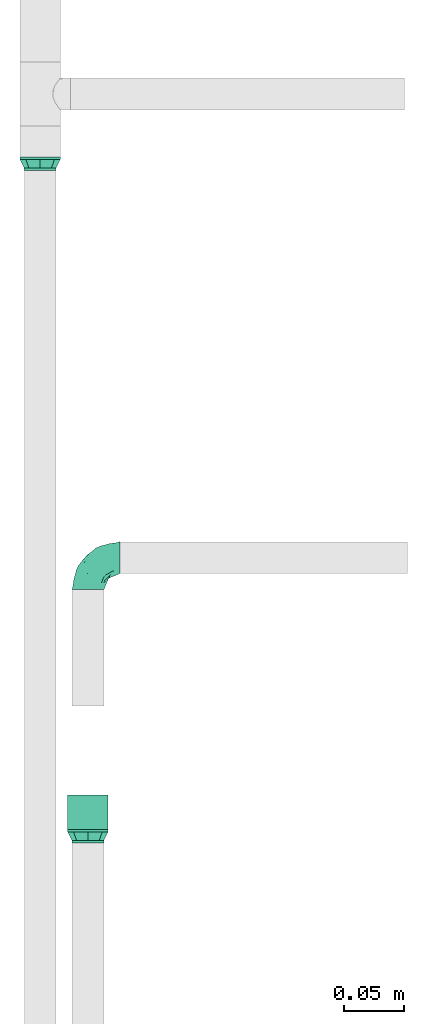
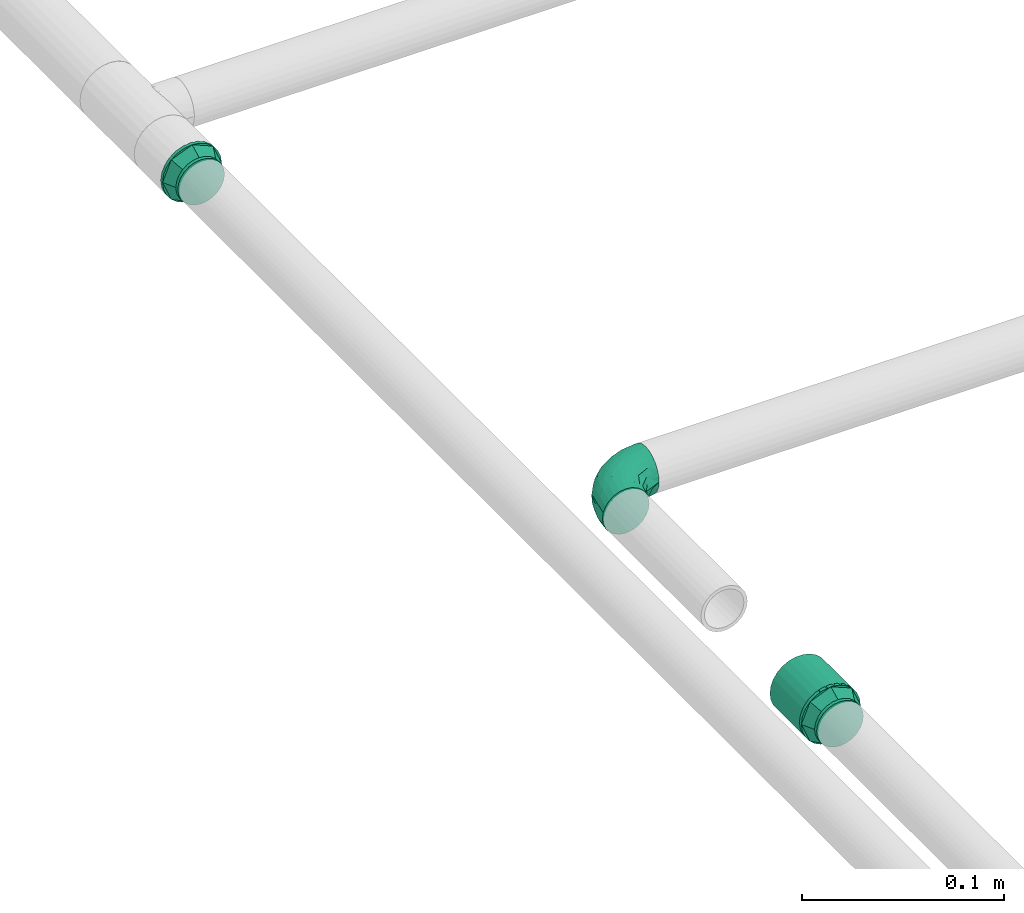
# One storey, part 4 of 13: 3 flow fittings, 1 flow segment.
"""IFC2X3 building model written with IfcOpenShell, lengths in millimetres."""

import ifcopenshell
import ifcopenshell.guid

model = None  # the IFC model being written
_history = None  # IfcOwnerHistory: only IFC2X3 demands one
_inside = {}  # id of a spatial element -> (the spatial element, [elements in it])
_under = {}  # id of a project, library or spatial element -> (it, [spatial elements below it])
_declared = {}  # id of a project -> (the project, [libraries it declares])
_typed = {}  # id of a type object -> (the type object, [elements of that type])
_made_of = {}  # id of a material, layer set ... -> (it, [elements and type objects made of it])


def new_model(schema):
    """Start an empty IFC model of exactly this schema.

    Asked for "IFC4X3", IfcOpenShell would pick the latest addendum, in which some entities
    have other attributes; the version numbers below select the first issue.
    IFC2X3 requires an IfcOwnerHistory on every rooted entity: one is made here for all.
    """
    global model, _history
    if schema == "IFC4X3":
        model = ifcopenshell.file(schema_version=(4, 3, 0, 0))
    else:
        model = ifcopenshell.file(schema=schema)
    _inside.clear()
    _under.clear()
    _declared.clear()
    _typed.clear()
    _made_of.clear()
    _history = None
    if model.schema == "IFC2X3":
        org = make("IfcOrganization", Name="unknown")
        user = make(
            "IfcPersonAndOrganization",
            ThePerson=make("IfcPerson", FamilyName="unknown"),
            TheOrganization=org,
        )
        app = make(
            "IfcApplication",
            ApplicationDeveloper=org,
            Version="unknown",
            ApplicationFullName="unknown",
            ApplicationIdentifier="unknown",
        )
        _history = make(
            "IfcOwnerHistory",
            OwningUser=user,
            OwningApplication=app,
            ChangeAction="ADDED",
            CreationDate=0,
        )
    return model


def make(cls, **values):
    """One entity of the class cls with the attributes given. An attribute that is None is left unset."""
    return model.create_entity(
        cls, **{name: value for name, value in values.items() if value is not None}
    )


def entity(cls, *values):
    """Any entity or typed value of the class cls, its attributes in the order of the schema. None: left unset."""
    e = model.create_entity(cls)
    for i, value in enumerate(values):
        if value is not None:
            e[i] = value
    return e


def rooted(cls, **values):
    """An entity with a GlobalId (a new one), such as an element, a storey or a relation."""
    return make(cls, GlobalId=ifcopenshell.guid.new(), OwnerHistory=_history, **values)


def si_unit(unit_type, name, prefix=None):
    """IfcSIUnit, for example si_unit("LENGTHUNIT", "METRE", prefix="MILLI")."""
    return make("IfcSIUnit", UnitType=unit_type, Prefix=prefix, Name=name)


def converted_unit(unit_type, name, factor, base, dimensions=None, offset=None):
    """IfcConversionBasedUnit, such as the inch: factor (a typed value) times the base unit."""
    return make(
        "IfcConversionBasedUnit"
        if offset is None
        else "IfcConversionBasedUnitWithOffset",
        ConversionOffset=offset,
        Dimensions=None
        if dimensions is None
        else entity("IfcDimensionalExponents", *dimensions),
        UnitType=unit_type,
        Name=name,
        ConversionFactor=make(
            "IfcMeasureWithUnit", ValueComponent=factor, UnitComponent=base
        ),
    )


def derived_unit(unit_type, elements):
    """IfcDerivedUnit: a product of units, each with its exponent."""
    return make(
        "IfcDerivedUnit",
        Elements=[
            make("IfcDerivedUnitElement", Unit=unit, Exponent=power)
            for unit, power in elements
        ],
        UnitType=unit_type,
    )


def assignment(units):
    """IfcUnitAssignment: the units of a project."""
    return None if units is None else make("IfcUnitAssignment", Units=units)


def point(xyz):
    """IfcCartesianPoint."""
    return None if xyz is None else make("IfcCartesianPoint", Coordinates=xyz)


def direction(xyz):
    """IfcDirection."""
    return None if xyz is None else make("IfcDirection", DirectionRatios=xyz)


def frame(location, z_axis=None, x_axis=None):
    """IfcAxis2Placement3D, a coordinate frame: its origin and axes. An axis left out is left unset."""
    return make(
        "IfcAxis2Placement3D",
        Location=point(location),
        Axis=direction(z_axis),
        RefDirection=direction(x_axis),
    )


def frame_2d(location, x_axis=None):
    """IfcAxis2Placement2D, a coordinate frame in the plane: its origin and x axis."""
    return make(
        "IfcAxis2Placement2D", Location=point(location), RefDirection=direction(x_axis)
    )


def origin_with_axes():
    """The frame at (0, 0, 0) with the z axis (0, 0, 1) and the x axis (1, 0, 0) written out."""
    return frame((0.0, 0.0, 0.0), z_axis=(0.0, 0.0, 1.0), x_axis=(1.0, 0.0, 0.0))


def origin_2d_with_axis():
    """The frame at (0, 0) in the plane with the x axis (1, 0) written out."""
    return frame_2d((0.0, 0.0), x_axis=(1.0, 0.0))


def place(relative_to, where):
    """IfcLocalPlacement: puts the frame where relative to a parent placement (None: the world)."""
    return make(
        "IfcLocalPlacement", PlacementRelTo=relative_to, RelativePlacement=where
    )


def context(
    kind, dimensions, precision=None, world=None, true_north=None, identifier=None
):
    """IfcGeometricRepresentationContext, for example the 3D "Model" context."""
    return make(
        "IfcGeometricRepresentationContext",
        ContextIdentifier=identifier,
        ContextType=kind,
        CoordinateSpaceDimension=dimensions,
        Precision=precision,
        WorldCoordinateSystem=world,
        TrueNorth=true_north,
    )


def subcontext(parent, identifier, kind, view, scale=None):
    """IfcGeometricRepresentationSubContext, for example "Body" below "Model"."""
    return make(
        "IfcGeometricRepresentationSubContext",
        ContextIdentifier=identifier,
        ContextType=kind,
        ParentContext=parent,
        TargetScale=scale,
        TargetView=view,
    )


def project(units=None, contexts=None):
    """IfcProject with its units and contexts."""
    return rooted(
        "IfcProject",
        Name="project",
        RepresentationContexts=contexts,
        UnitsInContext=assignment(units),
    )


def spatial(cls, under=None, at=None, **own):
    """A site, building, storey or space (cls), placed at a placement, below another one or the project."""
    s = rooted(cls, ObjectPlacement=at, **own)
    if under is not None:
        _under.setdefault(under.id(), (under, []))[1].append(s)
    return s


def profile(cls, at=None, kind="AREA", **sizes):
    """A parametric profile (cls). Its sizes go by their IFC names, for example OverallWidth=200.0."""
    return make(cls, ProfileType=kind, Position=at, **sizes)


def hollow_circle(**sizes):
    """IfcCircleHollowProfileDef."""
    return profile("IfcCircleHollowProfileDef", **sizes)


def extrude(swept, where, along, depth):
    """IfcExtrudedAreaSolid: the profile swept, set in the frame where, extruded along a direction by depth."""
    return make(
        "IfcExtrudedAreaSolid",
        SweptArea=swept,
        Position=where,
        ExtrudedDirection=direction(along),
        Depth=depth,
    )


def faces_of(points, faces, orient=None, outer=None):
    """IfcFace entities. A face is a list of loops; a loop is a list of indices into points, from 0.

    orient and outer hold one flag for each loop. By default every Orientation is true, the
    first loop of a face is its IfcFaceOuterBound and the others are IfcFaceBound.
    """
    made = []
    for i, loops in enumerate(faces):
        bounds = []
        for j, loop in enumerate(loops):
            is_outer = j == 0 if outer is None else outer[i][j]
            bounds.append(
                make(
                    "IfcFaceOuterBound" if is_outer else "IfcFaceBound",
                    Bound=make("IfcPolyLoop", Polygon=[points[k] for k in loop]),
                    Orientation=True if orient is None else orient[i][j],
                )
            )
        made.append(make("IfcFace", Bounds=bounds))
    return made


def open_shell(faces, orient=None, outer=None):
    """The faces of one IfcOpenShell. surface_model builds it on its shared points."""
    return ("IfcOpenShell", faces, orient, outer)


def surface_model(cls, points, shells):
    """IfcFaceBasedSurfaceModel or IfcShellBasedSurfaceModel (cls): surfaces that need not close."""
    shared = [point(p) for p in points]
    made = [make(c, CfsFaces=faces_of(shared, fs, o, b)) for c, fs, o, b in shells]
    if cls == "IfcFaceBasedSurfaceModel":
        return make(cls, FbsmFaces=made)
    return make(cls, SbsmBoundary=made)


def shape(context_of_items, identifier, shape_type, items):
    """IfcShapeRepresentation: the items that make up one representation, for example the "Body"."""
    return make(
        "IfcShapeRepresentation",
        ContextOfItems=context_of_items,
        RepresentationIdentifier=identifier,
        RepresentationType=shape_type,
        Items=items,
    )


def source(mapping_origin, context_of_items, identifier, shape_type, items):
    """IfcRepresentationMap: a shape defined once, which mapped items show again and again."""
    return make(
        "IfcRepresentationMap",
        MappingOrigin=mapping_origin,
        MappedRepresentation=shape(context_of_items, identifier, shape_type, items),
    )


def transform(
    local_origin,
    x_axis=None,
    y_axis=None,
    z_axis=None,
    scale=None,
    scale2=None,
    scale3=None,
    uniform=True,
):
    """IfcCartesianTransformationOperator3D, or its non-uniform kind. x_axis, y_axis, z_axis: its Axis1, 2, 3."""
    if uniform:
        return make(
            "IfcCartesianTransformationOperator3D",
            Axis1=direction(x_axis),
            Axis2=direction(y_axis),
            LocalOrigin=point(local_origin),
            Scale=scale,
            Axis3=direction(z_axis),
        )
    return make(
        "IfcCartesianTransformationOperator3DnonUniform",
        Axis1=direction(x_axis),
        Axis2=direction(y_axis),
        LocalOrigin=point(local_origin),
        Scale=scale,
        Axis3=direction(z_axis),
        Scale2=scale2,
        Scale3=scale3,
    )


def mapped(mapping_source, mapping_target):
    """IfcMappedItem: shows the shape of a source again, moved by a transform."""
    return make(
        "IfcMappedItem", MappingSource=mapping_source, MappingTarget=mapping_target
    )


def made_of(thing, what):
    """Note that an element or type object is made of a material, layer set ...; save() writes the relation."""
    if what is not None:
        _made_of.setdefault(what.id(), (what, []))[1].append(thing)
    return thing


def type_object(cls, material=None, **own):
    """A type object (cls), such as IfcWallType, which elements share."""
    return made_of(rooted(cls, **own), material)


def element(
    cls,
    number,
    at=None,
    inside=None,
    cuts=None,
    type_object=None,
    material=None,
    context=None,
    identifier="Body",
    shape_type=None,
    held_by="IfcProductDefinitionShape",
    body=None,
    shapes=None,
    **own,
):
    """One element of the class cls, such as IfcWall. Its Tag is "e" and its number.

    at: its placement. inside: the storey or other place that contains it. cuts: it is an
    opening in that element (IfcRelVoidsElement). A single representation is given by context,
    identifier, shape_type and body (its items); several are given by shapes. held_by: the class
    of the entity that holds the representations. save() writes the other relations.
    """
    e = rooted(cls, Tag="e%d" % number, ObjectPlacement=at, **own)
    if body is not None:
        shapes = [shape(context, identifier, shape_type, body)]
    if shapes is not None:
        e.Representation = make(held_by, Representations=shapes)
    if inside is not None:
        _inside.setdefault(inside.id(), (inside, []))[1].append(e)
    if cuts is not None:
        rooted(
            "IfcRelVoidsElement", RelatingBuildingElement=cuts, RelatedOpeningElement=e
        )
    if type_object is not None:
        _typed.setdefault(type_object.id(), (type_object, []))[1].append(e)
    return made_of(e, material)


def aggregate(whole, parts):
    """IfcRelAggregates: a whole, such as a stair, and the parts it consists of."""
    return rooted("IfcRelAggregates", RelatingObject=whole, RelatedObjects=parts)


def save(model, path):
    """Write the relations noted so far, then the file.

    IfcRelAggregates (storeys below a building ...), IfcRelContainedInSpatialStructure (elements
    in a storey), IfcRelDefinesByType, IfcRelAssociatesMaterial and IfcRelDeclares: one each for
    every whole, place, type object, material and project.
    """
    for whole, parts in _under.values():
        aggregate(whole, parts)
    for where, things in _inside.values():
        rooted(
            "IfcRelContainedInSpatialStructure",
            RelatedElements=things,
            RelatingStructure=where,
        )
    for kind, things in _typed.values():
        rooted("IfcRelDefinesByType", RelatedObjects=things, RelatingType=kind)
    for what, things in _made_of.values():
        rooted("IfcRelAssociatesMaterial", RelatedObjects=things, RelatingMaterial=what)
    for by, libraries in _declared.values():
        rooted("IfcRelDeclares", RelatingContext=by, RelatedDefinitions=libraries)
    model.write(path)


model = new_model("IFC2X3")

# Units and contexts
model_context = context("Model", 3, precision=0.01, world=frame((0.0, 4.29681676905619e-09, 0.0)), true_north=direction((4.01073788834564e-13, 1.0)))
plan_context = context("Plan", 3, precision=0.01, world=frame((0.0, 4.29681676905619e-09, 0.0)), true_north=direction((4.01073788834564e-13, 1.0)))
body_context = subcontext(model_context, "Body", "Model", "MODEL_VIEW")
ifc_project = project(units=[converted_unit("PLANEANGLEUNIT", "DEGREE", entity("IfcPositiveLengthMeasure", 0.0174532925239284), si_unit("PLANEANGLEUNIT", "RADIAN"), dimensions=[0, 0, 0, 0, 0, 0, 0]), si_unit("AREAUNIT", "SQUARE_METRE"), si_unit("LENGTHUNIT", "METRE", prefix="MILLI"), si_unit("MASSUNIT", "GRAM", prefix="KILO"), si_unit("POWERUNIT", "WATT"), si_unit("PRESSUREUNIT", "PASCAL", prefix="KILO"), si_unit("FORCEUNIT", "NEWTON", prefix="KILO"), si_unit("ELECTRICVOLTAGEUNIT", "VOLT"), si_unit("ELECTRICCURRENTUNIT", "AMPERE"), si_unit("THERMODYNAMICTEMPERATUREUNIT", "DEGREE_CELSIUS"), si_unit("TIMEUNIT", "SECOND"), si_unit("VOLUMEUNIT", "CUBIC_METRE"), derived_unit("LINEARVELOCITYUNIT", [(si_unit("LENGTHUNIT", "METRE"), 1), (si_unit("TIMEUNIT", "SECOND"), -1)]), derived_unit("VOLUMETRICFLOWRATEUNIT", [(si_unit("VOLUMEUNIT", "CUBIC_METRE"), 1), (si_unit("TIMEUNIT", "SECOND"), -1)]), derived_unit("THERMALTRANSMITTANCEUNIT", [(si_unit("POWERUNIT", "WATT"), 1), (si_unit("THERMODYNAMICTEMPERATUREUNIT", "KELVIN"), -1), (si_unit("AREAUNIT", "SQUARE_METRE"), -1)]), derived_unit("SOUNDPRESSUREUNIT", [(si_unit("PRESSUREUNIT", "PASCAL"), 1)])], contexts=[model_context, plan_context])

# Site, building, storey
site_placement = place(None, frame((0.0, -4.29681676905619e-09, 0.0), z_axis=(0.0, 0.0, 1.0), x_axis=(1.0, 0.0, 0.0)))
site = spatial("IfcSite", under=ifc_project, at=site_placement, Name="ENGM", CompositionType="ELEMENT")
building_placement = place(site_placement, frame((0.0, 4.29681676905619e-09, 0.0), z_axis=(0.0, 0.0, 1.0), x_axis=(1.0, 0.0, 0.0)))
building = spatial("IfcBuilding", under=site, at=building_placement, Name="TI", CompositionType="ELEMENT")
storey_placement = place(building_placement, frame((0.0, 0.0, 210900.0), z_axis=(0.0, 0.0, 1.0), x_axis=(1.0, 0.0, 0.0)))
storey = spatial("IfcBuildingStorey", under=building, at=storey_placement, Name="Nivå F", CompositionType="ELEMENT", Elevation=210900.0)

# Flow fittings
pipe_fitting_type_1 = type_object("IfcPipeFittingType", Name="magi_pipe_fe_reducer_centric_short_NOR", PredefinedType="TRANSITION")
shared_shape_1 = source(origin_with_axes(), body_context, "Body", "SurfaceModel", [
    surface_model("IfcShellBasedSurfaceModel", [(-2.0, 11.9501, 11.9501), (-2.0, 0.0, 16.9), (-2.0, 4.37404, 16.32415), (-2.0, 8.45, 14.63583), (-2.0, 14.63583, 8.45), (-2.0, 16.32415, 4.37404), (-2.0, -16.32415, 4.37404), (-2.0, -8.45, 14.63583), (-2.0, -14.63583, 8.45), (-2.0, -11.9501, 11.9501), (-2.0, -4.37404, 16.32415), (-2.0, -16.32415, -4.37404), (-2.0, -16.9, 0.0), (-2.0, -8.45, -14.63583), (-2.0, 16.32415, -4.37404), (-2.0, 11.9501, -11.9501), (-2.0, 14.63583, -8.45), (-2.0, 8.45, -14.63583), (-2.0, 4.37404, -16.32415), (-2.0, 0.0, -16.9), (-2.0, -11.9501, -11.9501), (-2.0, -14.63583, -8.45), (-2.0, -4.37404, -16.32415), (-2.0, 16.9, 0.0), (0.0, 4.37404, -16.32415), (0.0, 8.45, -14.63583), (0.0, 11.9501, -11.9501), (0.0, 0.0, -16.9), (0.0, 16.32415, -4.37404), (0.0, 16.32415, 4.37404), (0.0, 14.63583, -8.45), (0.0, -8.45, -14.63583), (0.0, -4.37404, -16.32415), (0.0, -11.9501, -11.9501), (0.0, -16.32415, -4.37404), (0.0, -14.63583, -8.45), (0.0, -16.32415, 4.37404), (0.0, 16.9, 0.0), (0.0, 14.63583, 8.45), (0.0, 11.9501, 11.9501), (0.0, 4.37404, 16.32415), (0.0, 8.45, 14.63583), (0.0, 0.0, 16.9), (0.0, -14.63583, 8.45), (0.0, -16.9, 0.0), (0.0, -8.45, 14.63583), (0.0, -11.9501, 11.9501), (0.0, -4.37404, 16.32415), (9.0, 12.94341, -3.46818), (9.0, 3.46818, -12.94341), (9.0, 6.7, -11.60474), (9.0, 9.47523, -9.47523), (9.0, -6.7, -11.60474), (9.0, -12.94341, 3.46818), (9.0, 11.60474, -6.7), (9.0, 0.0, -13.4), (9.0, -3.46818, -12.94341), (9.0, -9.47523, -9.47523), (9.0, -12.94341, -3.46818), (9.0, -11.60474, -6.7), (9.0, 13.4, 0.0), (9.0, 12.94341, 3.46818), (9.0, 11.60474, 6.7), (9.0, 9.47523, 9.47523), (9.0, 0.0, 13.4), (9.0, 6.7, 11.60474), (9.0, 3.46818, 12.94341), (9.0, -6.7, 11.60474), (9.0, -9.47523, 9.47523), (9.0, -11.60474, 6.7), (9.0, -13.4, 0.0), (9.0, -3.46818, 12.94341), (7.0, 0.0, 13.4), (7.0, 3.46818, 12.94341), (7.0, 6.7, 11.60474), (7.0, -3.46818, 12.94341), (7.0, 9.47523, 9.47523), (7.0, 11.60474, 6.7), (7.0, 12.94341, 3.46818), (7.0, -12.94341, 3.46818), (7.0, -9.47523, 9.47523), (7.0, -6.7, 11.60474), (7.0, -11.60474, 6.7), (7.0, -12.94341, -3.46818), (7.0, -13.4, 0.0), (7.0, -6.7, -11.60474), (7.0, 12.94341, -3.46818), (7.0, 9.47523, -9.47523), (7.0, 11.60474, -6.7), (7.0, 6.7, -11.60474), (7.0, 3.46818, -12.94341), (7.0, -9.47523, -9.47523), (7.0, -11.60474, -6.7), (7.0, 0.0, -13.4), (7.0, -3.46818, -12.94341), (7.0, 13.4, 0.0), (0.0, 13.18758, -8.96258), (0.0, 14.42505, -5.97505), (7.0, 10.491, -7.02294), (7.0, 11.50677, -4.57065), (0.0, 15.66253, -2.98753), (7.0, 12.45339, -2.28533), (0.0, 2.98753, -15.66253), (0.0, 5.97505, -14.42505), (0.0, 8.96258, -13.18758), (7.0, 4.73762, -11.43761), (7.0, 7.10642, -10.45642), (7.0, 2.36881, -12.41881), (0.0, -14.42505, -5.97505), (7.0, -11.43761, -4.73762), (7.0, -12.41881, -2.36881), (7.0, -2.36881, -12.41881), (7.0, -10.45642, -7.10642), (0.0, -15.70614, -2.88224), (0.0, -13.18758, -8.96258), (7.0, -4.73762, -11.43761), (7.0, -7.10642, -10.45642), (0.0, -5.97505, -14.42505), (0.0, -2.98753, -15.66253), (0.0, -8.96258, -13.18758), (0.0, -13.18758, 8.96258), (0.0, -14.42505, 5.97505), (7.0, -10.491, 7.02294), (7.0, -11.50677, 4.57065), (0.0, -15.66253, 2.98753), (7.0, -12.45339, 2.28533), (0.0, -2.98753, 15.66253), (0.0, -5.97505, 14.42505), (0.0, -8.96258, 13.18758), (7.0, -4.73762, 11.43761), (7.0, -7.10642, 10.45642), (7.0, -2.36881, 12.41881), (0.0, 14.42505, 5.97505), (7.0, 11.43761, 4.73762), (7.0, 12.41881, 2.36881), (7.0, 2.36881, 12.41881), (7.0, 10.45642, 7.10642), (0.0, 15.70614, 2.88224), (0.0, 13.18758, 8.96258), (7.0, 4.73762, 11.43761), (7.0, 7.10642, 10.45642), (0.0, 5.97505, 14.42505), (0.0, 2.98753, 15.66253), (0.0, 8.96258, 13.18758)], [open_shell([[[0, 1, 2]], [[0, 2, 3]], [[0, 4, 5]], [[0, 5, 1]], [[1, 5, 6]], [[7, 8, 9]], [[7, 10, 1]], [[8, 7, 1]], [[1, 6, 8]], [[6, 11, 12]], [[6, 5, 13]], [[5, 14, 15]], [[15, 14, 16]], [[15, 17, 18]], [[13, 5, 15]], [[19, 15, 18]], [[11, 20, 21]], [[20, 11, 13]], [[13, 19, 22]], [[11, 6, 13]], [[15, 19, 13]], [[5, 23, 14]], [[24, 25, 26]], [[27, 24, 26]], [[26, 28, 29]], [[28, 26, 30]], [[26, 29, 31]], [[27, 31, 32]], [[27, 26, 31]], [[33, 34, 35]], [[34, 33, 31]], [[31, 36, 34]], [[29, 28, 37]], [[29, 38, 39]], [[29, 39, 40]], [[40, 36, 31]], [[40, 39, 41]], [[36, 40, 42]], [[42, 43, 36]], [[44, 34, 36]], [[43, 45, 46]], [[43, 42, 45]], [[45, 42, 47]], [[31, 29, 40]], [[11, 34, 12]], [[21, 35, 11]], [[31, 20, 13]], [[21, 20, 33]], [[32, 13, 22]], [[11, 35, 34]], [[34, 44, 12]], [[32, 31, 13]], [[33, 20, 31]], [[33, 35, 21]], [[27, 32, 22]], [[22, 19, 27]], [[18, 24, 19]], [[17, 25, 18]], [[30, 15, 16]], [[17, 15, 26]], [[28, 16, 14]], [[17, 26, 25]], [[25, 24, 18]], [[37, 28, 14]], [[30, 16, 28]], [[30, 26, 15]], [[23, 37, 14]], [[19, 24, 27]], [[5, 29, 23]], [[4, 38, 5]], [[41, 0, 3]], [[4, 0, 39]], [[40, 3, 2]], [[5, 38, 29]], [[29, 37, 23]], [[40, 41, 3]], [[39, 0, 41]], [[39, 38, 4]], [[42, 40, 2]], [[2, 1, 42]], [[10, 47, 1]], [[7, 45, 10]], [[43, 9, 8]], [[7, 9, 46]], [[36, 8, 6]], [[7, 46, 45]], [[45, 47, 10]], [[44, 36, 6]], [[43, 8, 36]], [[43, 46, 9]], [[12, 44, 6]], [[1, 47, 42]], [[33, 44, 27]], [[48, 49, 50]], [[48, 50, 51]], [[52, 49, 53]], [[48, 51, 54]], [[49, 48, 53]], [[55, 52, 56]], [[55, 49, 52]], [[57, 58, 59]], [[53, 58, 57]], [[57, 52, 53]], [[48, 60, 53]], [[61, 62, 63]], [[61, 63, 64]], [[65, 66, 64]], [[65, 64, 63]], [[61, 64, 67]], [[53, 68, 69]], [[70, 58, 53]], [[53, 67, 68]], [[53, 61, 67]], [[71, 67, 64]], [[53, 60, 61]], [[72, 73, 74]], [[75, 72, 74]], [[76, 77, 78]], [[74, 76, 75]], [[78, 79, 76]], [[75, 80, 81]], [[80, 75, 79]], [[80, 79, 82]], [[75, 76, 79]], [[79, 83, 84]], [[79, 78, 85]], [[86, 87, 78]], [[87, 86, 88]], [[89, 85, 78]], [[78, 87, 89]], [[85, 89, 90]], [[83, 91, 92]], [[83, 79, 91]], [[85, 93, 94]], [[79, 85, 91]], [[90, 93, 85]], [[95, 86, 78]], [[83, 58, 84]], [[92, 59, 83]], [[52, 91, 85]], [[92, 91, 57]], [[56, 85, 94]], [[83, 59, 58]], [[58, 70, 84]], [[56, 52, 85]], [[57, 91, 52]], [[57, 59, 92]], [[55, 56, 94]], [[94, 93, 55]], [[90, 49, 93]], [[89, 50, 90]], [[54, 87, 88]], [[89, 87, 51]], [[48, 88, 86]], [[89, 51, 50]], [[50, 49, 90]], [[60, 48, 86]], [[54, 88, 48]], [[54, 51, 87]], [[95, 60, 86]], [[93, 49, 55]], [[78, 61, 95]], [[77, 62, 78]], [[65, 76, 74]], [[77, 76, 63]], [[66, 74, 73]], [[78, 62, 61]], [[61, 60, 95]], [[66, 65, 74]], [[63, 76, 65]], [[63, 62, 77]], [[64, 66, 73]], [[73, 72, 64]], [[75, 71, 72]], [[81, 67, 75]], [[69, 80, 82]], [[81, 80, 68]], [[53, 82, 79]], [[81, 68, 67]], [[67, 71, 75]], [[70, 53, 79]], [[69, 82, 53]], [[69, 68, 80]], [[84, 70, 79]], [[72, 71, 64]], [[72, 80, 95]], [[95, 76, 72]], [[80, 91, 95]], [[91, 93, 95]], [[87, 95, 93]], [[80, 84, 91]], [[42, 39, 46]], [[44, 46, 39]], [[39, 27, 44]], [[26, 27, 39]], [[39, 37, 26]], [[96, 97, 98]], [[99, 100, 101]], [[37, 95, 101]], [[93, 27, 102]], [[103, 104, 105]], [[104, 26, 106]], [[87, 26, 96]], [[103, 107, 102]], [[108, 109, 110]], [[37, 101, 100]], [[27, 93, 111]], [[112, 33, 91]], [[110, 84, 113]], [[109, 114, 112]], [[33, 112, 114]], [[115, 116, 117]], [[115, 118, 111]], [[93, 102, 107]], [[116, 91, 119]], [[27, 111, 118]], [[97, 99, 98]], [[87, 96, 98]], [[100, 99, 97]], [[26, 87, 106]], [[105, 104, 106]], [[107, 103, 105]], [[84, 44, 113]], [[108, 110, 113]], [[114, 109, 108]], [[91, 33, 119]], [[117, 116, 119]], [[118, 115, 117]], [[120, 121, 122]], [[123, 124, 125]], [[44, 84, 125]], [[72, 42, 126]], [[127, 128, 129]], [[128, 46, 130]], [[80, 46, 120]], [[127, 131, 126]], [[132, 133, 134]], [[44, 125, 124]], [[42, 72, 135]], [[136, 39, 76]], [[134, 95, 137]], [[133, 138, 136]], [[39, 136, 138]], [[139, 140, 141]], [[139, 142, 135]], [[72, 126, 131]], [[140, 76, 143]], [[42, 135, 142]], [[121, 123, 122]], [[80, 120, 122]], [[124, 123, 121]], [[46, 80, 130]], [[129, 128, 130]], [[131, 127, 129]], [[95, 37, 137]], [[132, 134, 137]], [[138, 133, 132]], [[76, 39, 143]], [[141, 140, 143]], [[142, 139, 141]]])]),
])
for number, where, z_axis, x_axis, name in (
    (1, (585306.17776, 570658.24678, -48.6000000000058), (0.0, 0.0, 1.0), (0.0, -1.0, 0.0), "magi_pipe_fe_reducer_centric_short_NOR"),
    (2, (585266.17776, 571221.94168, -48.6000000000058), (0.0, 0.0, 1.0), (0.0, -1.0, 0.0), "magi_pipe_fe_reducer_centric_short_NOR"),
):
    element("IfcFlowFitting", number, at=place(storey_placement, frame(where, z_axis=z_axis, x_axis=x_axis)), inside=storey, type_object=pipe_fitting_type_1, Name=name, context=body_context, shape_type="MappedRepresentation", body=[
        mapped(shared_shape_1, transform((0.0, 0.0, 0.0), scale=1.0)),
    ])
pipe_fitting_type_2 = type_object("IfcPipeFittingType", Name="magi_pipe_fe_elbow_short_001", PredefinedType="BEND")
shared_shape_2 = source(origin_with_axes(), body_context, "Body", "SurfaceModel", [
    surface_model("IfcShellBasedSurfaceModel", [(-26.8, 3.46818, -12.94341), (-26.8, 0.0, -13.4), (-26.8, 9.47523, -9.47523), (-26.8, 6.7, -11.60474), (-26.8, 12.94341, -3.46818), (-26.8, 11.60474, -6.7), (-26.8, -6.7, 11.60474), (-26.8, -12.94341, -3.46818), (-26.8, -9.47523, -9.47523), (-26.8, -6.7, -11.60474), (-26.8, -3.46818, -12.94341), (-26.8, -11.60474, -6.7), (-26.8, -13.4, 0.0), (-26.8, 9.47523, 9.47523), (-26.8, 12.94341, 3.46818), (-26.8, 11.60474, 6.7), (-26.8, 3.46818, 12.94341), (-26.8, 6.7, 11.60474), (-26.8, -11.60474, 6.7), (-26.8, -9.47523, 9.47523), (-26.8, -12.94341, 3.46818), (-26.8, -3.46818, 12.94341), (-26.8, 0.0, 13.4), (-26.8, 13.4, 0.0), (-9.47523, 26.8, -9.47523), (0.0, 26.8, -13.4), (-3.46818, 26.8, -12.94341), (-6.7, 26.8, -11.60474), (-11.60474, 26.8, -6.7), (-12.94341, 26.8, -3.46818), (12.94341, 26.8, -3.46818), (6.7, 26.8, 11.60474), (6.7, 26.8, -11.60474), (9.47523, 26.8, -9.47523), (3.46818, 26.8, -12.94341), (11.60474, 26.8, -6.7), (13.4, 26.8, 0.0), (-12.94341, 26.8, 3.46818), (-9.47523, 26.8, 9.47523), (-11.60474, 26.8, 6.7), (-6.7, 26.8, 11.60474), (-3.46818, 26.8, 12.94341), (12.94341, 26.8, 3.46818), (9.47523, 26.8, 9.47523), (11.60474, 26.8, 6.7), (3.46818, 26.8, 12.94341), (0.0, 26.8, 13.4), (-13.4, 26.8, 0.0), (-17.94383, -11.72186, 4.19396), (-19.61933, -10.40522, 7.51874), (-14.00394, -9.97131, 0.0), (-10.88146, -9.75217, 2.96415), (5.6402, 4.14256, 4.06277), (2.9355, 3.86758, 7.99817), (-0.16552, -0.70254, 6.90229), (-11.69279, -8.47867, 6.74741), (-3.60975, -5.23517, 4.12915), (-20.40197, -11.68565, 0.0), (6.07727, 10.7767, 9.16668), (7.71917, 17.5318, 9.98024), (3.23022, 10.34855, 11.14395), (-17.5318, -7.71917, 9.98024), (-19.6814, -5.06542, 12.05518), (-20.47091, -1.77513, 13.17083), (-18.76435, 2.05404, 13.37716), (-10.34855, -3.23022, 11.14395), (-13.34095, -0.12025, 12.98799), (-20.6562, 5.25542, 12.65822), (-21.01515, 11.15223, 8.78653), (-19.1981, 14.0055, 6.12639), (-23.45804, 12.58298, 5.55254), (-13.79572, 19.62699, 6.0655), (-4.65712, 13.17755, 13.37596), (-9.92557, 9.92557, 13.07441), (-7.97904, 5.85569, 13.33097), (-14.12498, 14.96497, 9.49183), (-23.18377, 8.11481, 10.91864), (-3.49778, 8.97497, 13.15743), (-6.65819, 2.45826, 12.5129), (-1.36893, 7.23965, 12.31444), (-22.3163, 13.71444, 3.37662), (-20.76788, 15.89859, 0.0), (-5.00198, 23.11411, 12.55149), (-1.83653, 20.04451, 13.36709), (5.06542, 19.6814, 12.05518), (-4.60225, -3.19632, 8.30444), (-2.39362, 2.39362, 10.95564), (1.77513, 20.47091, 13.17083), (10.40522, 19.61933, 7.51874), (8.47867, 11.69279, 6.74741), (11.72186, 17.94383, 4.19396), (-10.7767, -6.07727, 9.16668), (-14.71477, 20.20527, 3.11661), (-18.32912, 15.92283, 3.19527), (9.75217, 10.88146, 2.96415), (9.97131, 14.00394, 0.0), (11.68565, 20.40197, 0.0), (-17.32477, 17.32477, 0.0), (8.01422, 6.7, 0.0), (-11.0099, 17.80242, 10.25412), (-8.46783, 20.75346, 11.10693), (-11.06207, 21.36651, 8.74797), (-10.13559, 14.48567, 11.94159), (-5.79525, 18.15733, 12.76163), (-14.31139, 12.02432, 11.13575), (-6.7, -8.01422, 0.0), (-14.72492, 5.73985, 13.1602), (-13.14892, 3.28357, 13.39428), (-14.24576, 9.09225, 12.39421), (-7.80572, 13.90987, 12.83655), (0.12025, 13.34095, 12.98799), (-18.45241, 9.09615, 11.28418), (-1.02036, 0.84565, 9.15855), (-3.66591, -4.13183, 6.30134), (-3.02144, -4.33567, 0.0), (1.56761, -1.1228, 3.23127), (-15.89859, 20.76788, 0.0), (4.33567, 3.02144, 0.0), (0.65711, -0.65711, 0.0), (-21.21323, 1.69434, -13.35639), (-11.59215, 19.61477, -8.94181), (-19.9553, -12.05444, -4.41231), (-20.61911, 5.26132, -12.65979), (-18.29002, 15.89425, -3.37935), (-10.94714, -3.38176, -11.24231), (-11.6358, -0.16715, -12.74497), (-5.38395, -0.22423, -10.97991), (-19.45447, 8.78609, -11.20697), (-21.18665, 11.10723, -8.76769), (8.05635, 19.80434, -10.14754), (-16.16073, 12.27967, -10.10626), (-10.65974, -9.81032, -2.24682), (-4.63434, -6.26604, -3.21731), (-12.41035, 15.57424, -10.31822), (-9.54276, 16.38525, -11.6371), (-12.38435, 12.38435, -11.76567), (-1.18054, -2.52878, -5.66699), (1.17703, 2.36499, -8.51656), (4.94456, 3.94062, -5.27361), (-13.23013, 7.7548, -12.95755), (-18.92609, -10.30887, -7.4546), (-19.80434, -8.05635, -10.14754), (-5.46999, 19.49566, -12.70683), (12.05444, 19.9553, -4.41231), (-22.63124, -5.28269, -12.19553), (-11.57403, -7.91736, -7.4927), (-10.00514, -5.4662, -9.37392), (0.56412, 6.29454, -11.17498), (0.16715, 11.6358, -12.74497), (2.76952, 11.43973, -11.70622), (-22.71135, 13.83144, -2.294), (-13.13887, 21.26515, -5.84046), (-14.02683, 21.74629, -2.98452), (10.30887, 18.92609, -7.4546), (-4.73052, 4.73052, -12.6532), (-16.28385, 15.93209, -6.57302), (-1.69434, 21.21323, -13.35639), (-8.4106, 21.03687, -11.08508), (1.68957, 19.74249, -13.15499), (5.28269, 22.63124, -12.19553), (-19.74249, -1.68957, -13.15499), (-16.96978, -4.62448, -11.91765), (-3.16773, 14.76219, -13.39711), (-7.24575, 7.81916, -13.39239), (-7.92886, 12.7032, -13.00116), (-6.57993, -6.26304, -6.05124), (9.46363, 9.95483, -2.39006), (6.59847, 4.89531, -2.6225), (0.29079, -2.47661, -2.876), (-21.42347, 13.17132, -5.65321), (9.35918, 11.66841, -5.08525), (8.33374, 12.94014, -7.69724), (5.4662, 10.00514, -9.37392), (4.62448, 16.96978, -11.91765), (-3.89324, -2.60816, -8.35445), (5.97121, 7.49007, -7.29975), (-14.76219, 3.16773, -13.39711), (-15.36238, 22.06238, 0.0), (-11.66841, -9.35918, -5.08525), (3.63632, 1.19488, -3.35093), (-14.94382, 15.17624, -8.6945)], [open_shell([[[0, 1, 2]], [[3, 0, 2]], [[4, 5, 2]], [[1, 4, 2]], [[6, 1, 7]], [[8, 7, 9]], [[1, 10, 9]], [[11, 7, 8]], [[9, 7, 1]], [[12, 6, 7]], [[4, 1, 6]], [[13, 14, 4]], [[15, 14, 13]], [[16, 17, 13]], [[13, 4, 16]], [[4, 6, 16]], [[18, 19, 20]], [[19, 12, 20]], [[6, 21, 16]], [[19, 6, 12]], [[16, 21, 22]], [[23, 4, 14]], [[24, 25, 26]], [[24, 26, 27]], [[24, 28, 29]], [[24, 29, 25]], [[30, 25, 31]], [[32, 30, 33]], [[32, 34, 25]], [[33, 30, 35]], [[25, 30, 32]], [[30, 31, 36]], [[31, 25, 29]], [[29, 37, 38]], [[38, 37, 39]], [[38, 40, 41]], [[41, 29, 38]], [[41, 31, 29]], [[42, 43, 44]], [[42, 36, 43]], [[41, 45, 31]], [[36, 31, 43]], [[46, 45, 41]], [[37, 29, 47]], [[48, 49, 18]], [[48, 50, 51]], [[52, 53, 54]], [[55, 51, 56]], [[49, 19, 18]], [[57, 48, 20]], [[58, 59, 60]], [[61, 6, 19]], [[61, 62, 6]], [[22, 63, 64]], [[62, 65, 66]], [[59, 43, 31]], [[22, 21, 63]], [[67, 17, 16]], [[68, 69, 70]], [[39, 37, 71]], [[72, 73, 74]], [[69, 68, 75]], [[22, 64, 16]], [[17, 76, 13]], [[15, 13, 68]], [[77, 78, 79]], [[80, 81, 23]], [[41, 82, 83]], [[31, 84, 59]], [[85, 86, 65]], [[45, 46, 87]], [[88, 89, 90]], [[91, 65, 61]], [[46, 41, 83]], [[71, 92, 93]], [[90, 94, 95]], [[84, 31, 45]], [[88, 90, 44]], [[59, 84, 60]], [[42, 44, 90]], [[75, 71, 69]], [[6, 62, 21]], [[90, 96, 42]], [[97, 81, 93]], [[94, 98, 95]], [[92, 97, 93]], [[50, 48, 57]], [[70, 14, 15]], [[99, 100, 101]], [[38, 101, 100]], [[40, 38, 100]], [[102, 103, 100]], [[103, 72, 83]], [[82, 100, 103]], [[82, 41, 40]], [[99, 104, 102]], [[23, 14, 80]], [[67, 16, 64]], [[51, 50, 105]], [[48, 18, 20]], [[49, 55, 61]], [[44, 43, 88]], [[89, 52, 94]], [[106, 107, 74]], [[108, 67, 106]], [[38, 39, 101]], [[109, 102, 73]], [[103, 109, 72]], [[87, 83, 110]], [[76, 68, 13]], [[68, 111, 104]], [[65, 62, 61]], [[63, 62, 66]], [[91, 61, 55]], [[65, 86, 78]], [[87, 84, 45]], [[110, 79, 60]], [[110, 60, 84]], [[86, 112, 60]], [[55, 49, 48]], [[61, 19, 49]], [[43, 59, 88]], [[89, 88, 59]], [[106, 67, 64]], [[76, 67, 111]], [[53, 52, 89]], [[112, 86, 85]], [[56, 113, 55]], [[112, 54, 53]], [[58, 89, 59]], [[56, 51, 105]], [[114, 115, 56]], [[14, 70, 80]], [[69, 71, 93]], [[47, 116, 92]], [[92, 116, 97]], [[39, 71, 101]], [[75, 101, 71]], [[99, 102, 100]], [[108, 104, 111]], [[106, 74, 73]], [[110, 83, 72]], [[78, 74, 66]], [[72, 74, 77]], [[83, 87, 46]], [[84, 87, 110]], [[62, 63, 21]], [[64, 63, 66]], [[20, 12, 57]], [[96, 90, 95]], [[96, 36, 42]], [[115, 117, 52]], [[56, 105, 114]], [[55, 48, 51]], [[89, 94, 90]], [[52, 98, 94]], [[106, 64, 107]], [[108, 106, 73]], [[102, 108, 73]], [[67, 108, 111]], [[102, 104, 108]], [[68, 104, 75]], [[64, 66, 107]], [[66, 74, 107]], [[65, 78, 66]], [[79, 78, 86]], [[60, 79, 86]], [[77, 79, 110]], [[72, 77, 110]], [[78, 77, 74]], [[67, 76, 17]], [[68, 76, 111]], [[100, 82, 40]], [[83, 82, 103]], [[68, 70, 15]], [[80, 69, 93]], [[69, 80, 70]], [[80, 93, 81]], [[55, 85, 91]], [[85, 65, 91]], [[60, 53, 58]], [[53, 89, 58]], [[54, 112, 85]], [[60, 112, 53]], [[85, 113, 54]], [[113, 115, 54]], [[55, 113, 85]], [[115, 113, 56]], [[71, 37, 92]], [[115, 114, 118]], [[47, 92, 37]], [[101, 75, 99]], [[99, 75, 104]], [[72, 109, 73]], [[103, 102, 109]], [[54, 115, 52]], [[117, 115, 118]], [[117, 98, 52]], [[0, 119, 1]], [[28, 24, 120]], [[121, 57, 7]], [[3, 122, 0]], [[97, 123, 81]], [[124, 125, 126]], [[127, 2, 128]], [[33, 129, 32]], [[127, 128, 130]], [[131, 132, 105]], [[133, 134, 135]], [[127, 3, 2]], [[136, 137, 138]], [[139, 122, 127]], [[2, 5, 128]], [[11, 140, 121]], [[141, 140, 8]], [[26, 142, 27]], [[95, 143, 96]], [[144, 9, 10]], [[145, 141, 146]], [[30, 36, 96]], [[147, 148, 149]], [[140, 11, 8]], [[23, 81, 150]], [[130, 133, 135]], [[151, 152, 29]], [[153, 35, 143]], [[147, 154, 148]], [[29, 28, 151]], [[120, 155, 151]], [[33, 153, 129]], [[25, 156, 26]], [[26, 156, 142]], [[143, 35, 30]], [[24, 27, 157]], [[123, 152, 155]], [[158, 34, 159]], [[144, 160, 161]], [[122, 3, 127]], [[148, 162, 158]], [[157, 27, 142]], [[162, 163, 164]], [[159, 34, 32]], [[165, 136, 132]], [[35, 153, 33]], [[166, 98, 167]], [[160, 10, 1]], [[161, 160, 125]], [[95, 166, 143]], [[50, 131, 105]], [[121, 7, 11]], [[168, 114, 132]], [[150, 169, 4]], [[167, 98, 117]], [[34, 158, 25]], [[164, 142, 162]], [[133, 157, 134]], [[8, 9, 141]], [[165, 145, 146]], [[170, 171, 153]], [[129, 172, 173]], [[126, 137, 174]], [[175, 137, 172]], [[148, 158, 173]], [[156, 158, 162]], [[149, 172, 147]], [[148, 154, 163]], [[119, 160, 1]], [[176, 163, 125]], [[176, 125, 160]], [[125, 154, 126]], [[169, 128, 5]], [[127, 130, 135]], [[139, 127, 135]], [[119, 122, 176]], [[120, 151, 28]], [[152, 97, 177]], [[142, 164, 134]], [[120, 24, 157]], [[152, 47, 29]], [[81, 123, 150]], [[123, 155, 169]], [[152, 123, 97]], [[140, 178, 121]], [[121, 178, 131]], [[144, 141, 9]], [[146, 141, 161]], [[30, 96, 143]], [[170, 153, 143]], [[129, 153, 171]], [[159, 129, 173]], [[137, 147, 172]], [[126, 154, 147]], [[172, 171, 175]], [[174, 137, 136]], [[137, 126, 147]], [[126, 146, 124]], [[117, 118, 179]], [[179, 138, 167]], [[128, 169, 155]], [[5, 4, 169]], [[57, 121, 50]], [[57, 12, 7]], [[122, 119, 0]], [[160, 119, 176]], [[158, 156, 25]], [[142, 156, 162]], [[162, 148, 163]], [[139, 135, 164]], [[125, 163, 154]], [[139, 163, 176]], [[163, 139, 164]], [[122, 139, 176]], [[155, 180, 128]], [[180, 120, 133]], [[180, 133, 130]], [[157, 133, 120]], [[142, 134, 157]], [[164, 135, 134]], [[128, 180, 130]], [[120, 180, 155]], [[152, 151, 155]], [[47, 152, 177]], [[169, 150, 123]], [[23, 150, 4]], [[121, 131, 50]], [[178, 165, 132]], [[178, 132, 131]], [[168, 132, 136]], [[145, 165, 178]], [[174, 165, 146]], [[178, 140, 145]], [[141, 145, 140]], [[179, 136, 138]], [[170, 166, 167]], [[168, 179, 118]], [[170, 167, 138]], [[143, 166, 170]], [[95, 98, 166]], [[117, 179, 167]], [[136, 179, 168]], [[129, 159, 32]], [[158, 159, 173]], [[160, 144, 10]], [[141, 144, 161]], [[175, 170, 138]], [[129, 171, 172]], [[170, 175, 171]], [[137, 175, 138]], [[148, 173, 149]], [[172, 149, 173]], [[165, 174, 136]], [[126, 174, 146]], [[146, 161, 124]], [[125, 124, 161]], [[114, 168, 118]], [[114, 105, 132]]])]),
])
flow_fitting_placement = place(storey_placement, frame((585306.17776, 570888.24678, -48.6000000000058), z_axis=(0.0, 0.0, 1.0), x_axis=(-1.0, 0.0, 0.0)))
element("IfcFlowFitting", 3, at=flow_fitting_placement, inside=storey, type_object=pipe_fitting_type_2, Name="magi_pipe_fe_elbow_short_001", context=body_context, shape_type="MappedRepresentation", body=[
    mapped(shared_shape_2, transform((0.0, 0.0, 0.0), scale=1.0)),
])

# Flow segment
pipe_segment_type = type_object("IfcPipeSegmentType", Name="Stålrør normaltykke", PredefinedType="RIGIDSEGMENT")
shared_shape_3 = source(origin_with_axes(), body_context, "Body", "SweptSolid", [
    extrude(hollow_circle(Radius=16.9, WallThickness=2.0, at=origin_2d_with_axis()), frame((0.0, 0.0, 0.0), z_axis=(1.0, 0.0, 0.0), x_axis=(0.0, 1.0, 0.0)), (0.0, 0.0, 1.0), 31.2),
])
flow_segment_placement = place(storey_placement, frame((585306.17776, 570689.44678, -48.6000000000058), z_axis=(0.0, 0.0, 1.0), x_axis=(0.0, -1.0, 0.0)))
element("IfcFlowSegment", 4, at=flow_segment_placement, inside=storey, type_object=pipe_segment_type, Name="Stålrør normaltykke", context=body_context, shape_type="MappedRepresentation", body=[
    mapped(shared_shape_3, transform((0.0, 0.0, 0.0), scale=1.0)),
])

save(model, "model.ifc")
